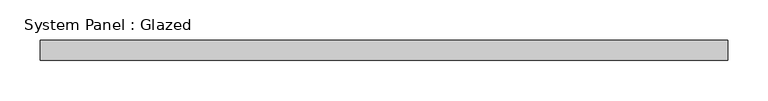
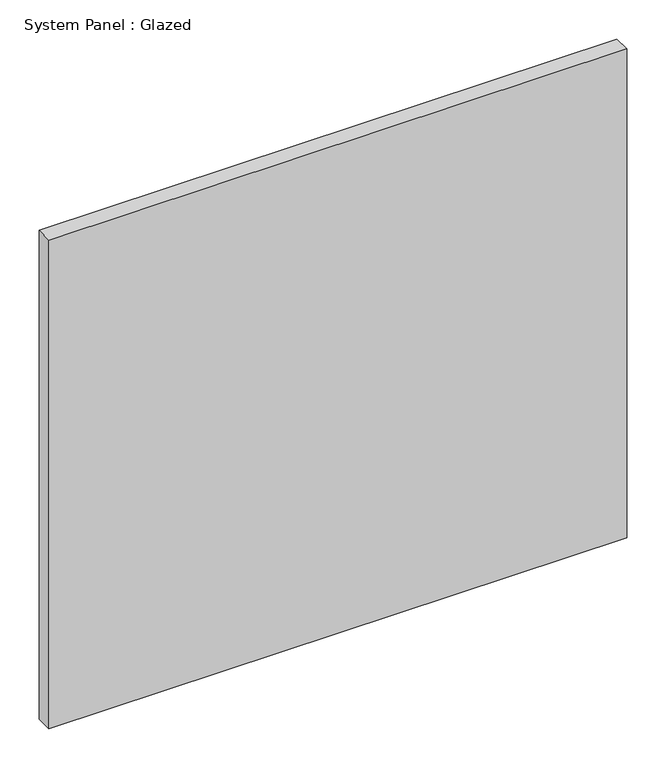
"""IFC4 building model written with IfcOpenShell, lengths in millimetres: plate geometry, System Panel : Glazed."""

from ifc_helpers import new_model, si_unit, origin, origin_with_axes, place, context, project, spatial, polyline, outline, extrude, source, transform, mapped, element, save


def system_panel_glazed_c90d999c(model_context):
    return source(origin(), model_context, "Body", "SweptSolid", [
        extrude(outline(polyline([(427.5, 24.5), (-427.5, 24.5), (-427.5, 49.5), (427.5, 49.5), (427.5, 24.5)])), origin_with_axes(), (0.0, 0.0, 1.0), 765.0),
    ])


if __name__ == "__main__":
    model = new_model("IFC4")
    model_context = context("Model", 3, world=origin())
    ifc_project = project(units=[si_unit("LENGTHUNIT", "METRE", prefix="MILLI")], contexts=[model_context])
    site = spatial("IfcSite", under=ifc_project)
    building = spatial("IfcBuilding", under=site)
    placement = place(None, origin())
    system_panel_glazed_shape = system_panel_glazed_c90d999c(model_context)
    element("IfcPlate", 1, ObjectType="System Panel : Glazed", at=placement, inside=building, context=model_context, shape_type="MappedRepresentation", body=[
        mapped(system_panel_glazed_shape, transform((0.0, 0.0, 0.0), x_axis=(1.0, 0.0, 0.0), y_axis=(0.0, 1.0, 0.0), z_axis=(0.0, 0.0, 1.0))),
    ])
    save(model, "model.ifc")
